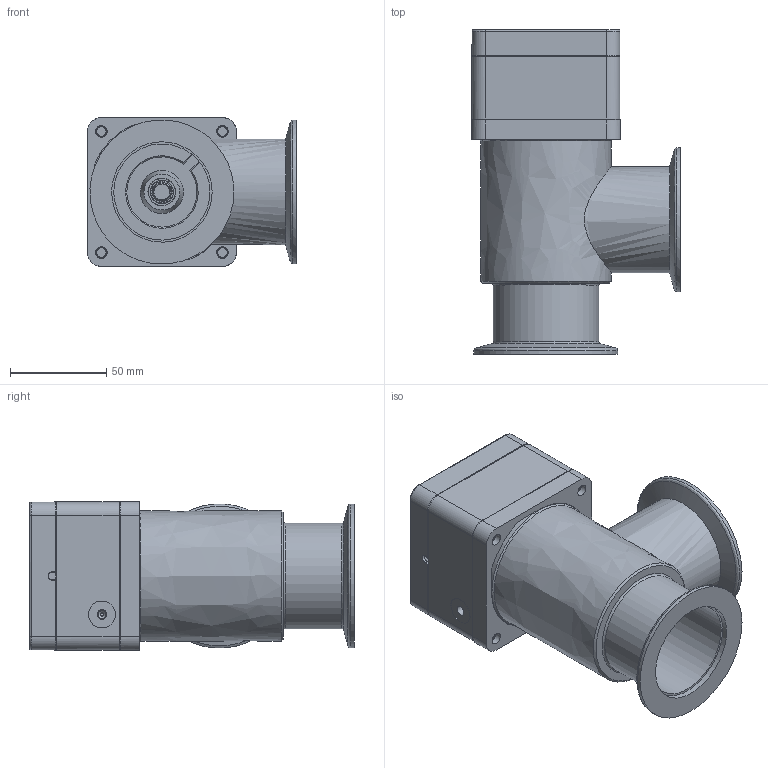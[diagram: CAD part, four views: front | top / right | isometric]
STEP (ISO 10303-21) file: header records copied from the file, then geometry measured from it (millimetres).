
FILE_DESCRIPTION((''),'2;1');
FILE_NAME('C:\TEMP\IDEAS\325691.stp','2006-09-19T16:20:23',('User'),( 'SDRC'),'I-DEAS Master Series 9','UNIX','Yes');
FILE_SCHEMA(('CONFIG_CONTROL_DESIGN'));
Length unit declared in the file: millimetre
Assembly tree (14 placements, depth 0):
Bounding box: 108.7 x 168.8 x 77.4 mm (x, y, z)
Volume: 151743.9 mm3; surface area: 155147.8 mm2
Topology: 19 solids, 20 shells, 577 faces, 1459 edges, 998 vertices
Faces by surface type: bspline 577
Entity records: 18540 total; most frequent: CARTESIAN_POINT 9549, ORIENTED_EDGE 2502, EDGE_CURVE 1251, VERTEX_POINT 800, EDGE_LOOP 578, FACE_OUTER_BOUND 502, ADVANCED_FACE 502, B_SPLINE_CURVE_WITH_KNOTS 499
